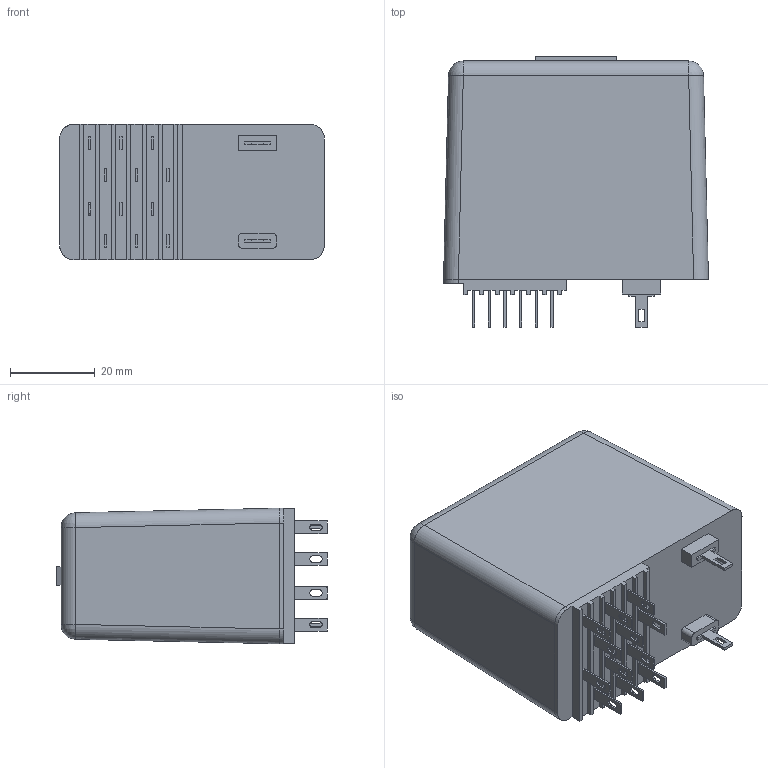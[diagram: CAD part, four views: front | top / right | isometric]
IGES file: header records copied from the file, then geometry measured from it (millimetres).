
Start section: SolidWorks IGES file using analytic representation for surfaces
Global section: file name: D:\X - Arquivos\PROEX\Empresas\P11 - METALTEX\01 - Produtos\IGES\7ª remessa\1ª etapa\EO4RC3.IGS; native system: SolidWorks 2012; preprocessor: SolidWorks 2012; author: Usuario; date: 190705.144039; units: millimetre
Bounding box: 62.5 x 63.8 x 32 mm (x, y, z)
Surface area: 14650.5 mm2 (no closed solid volume)
Topology: 0 solids, 0 shells, 299 faces, 2050 edges, 2050 vertices
Faces by surface type: bspline 257, revolution 42
